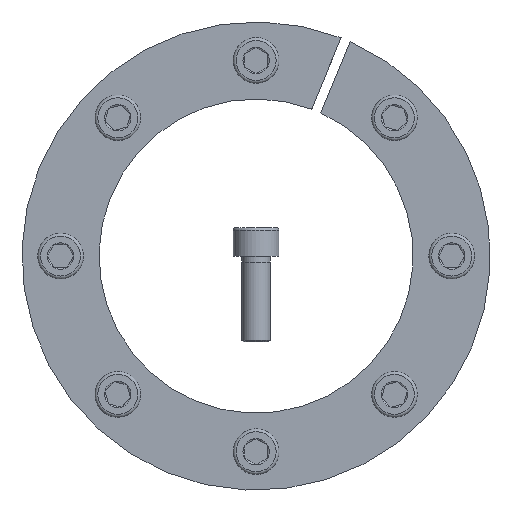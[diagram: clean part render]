
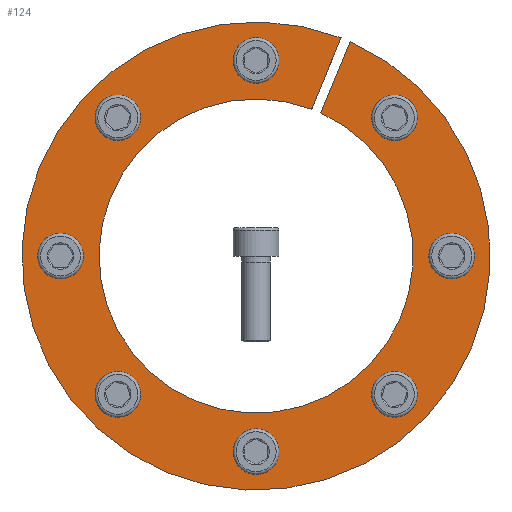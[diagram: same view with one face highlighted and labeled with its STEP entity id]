
A CAD part, front view. The second image highlights one B-rep face of the part: STEP entity #124.
In plain terms, the highlighted planar face has unit normal (0, -1, 0).
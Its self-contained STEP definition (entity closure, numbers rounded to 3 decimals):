
#124 = ADVANCED_FACE( '', ( #278, #279, #280, #281, #282, #283, #284, #285, #286 ), #287, .F. );
#278 = FACE_BOUND( '', #440, .T. );
#279 = FACE_BOUND( '', #441, .T. );
#280 = FACE_BOUND( '', #442, .T. );
#281 = FACE_BOUND( '', #443, .T. );
#282 = FACE_BOUND( '', #444, .T. );
#283 = FACE_BOUND( '', #445, .T. );
#284 = FACE_BOUND( '', #446, .T. );
#285 = FACE_BOUND( '', #447, .T. );
#286 = FACE_OUTER_BOUND( '', #448, .T. );
#287 = PLANE( '', #449 );
#440 = EDGE_LOOP( '', ( #724 ) );
#441 = EDGE_LOOP( '', ( #725 ) );
#442 = EDGE_LOOP( '', ( #726 ) );
#443 = EDGE_LOOP( '', ( #727 ) );
#444 = EDGE_LOOP( '', ( #728 ) );
#445 = EDGE_LOOP( '', ( #729 ) );
#446 = EDGE_LOOP( '', ( #730 ) );
#447 = EDGE_LOOP( '', ( #731 ) );
#448 = EDGE_LOOP( '', ( #732, #733, #734, #735 ) );
#449 = AXIS2_PLACEMENT_3D( '', #736, #737, #738 );
#724 = ORIENTED_EDGE( '', *, *, #817, .T. );
#725 = ORIENTED_EDGE( '', *, *, #858, .T. );
#726 = ORIENTED_EDGE( '', *, *, #802, .T. );
#727 = ORIENTED_EDGE( '', *, *, #887, .T. );
#728 = ORIENTED_EDGE( '', *, *, #877, .T. );
#729 = ORIENTED_EDGE( '', *, *, #855, .T. );
#730 = ORIENTED_EDGE( '', *, *, #805, .T. );
#731 = ORIENTED_EDGE( '', *, *, #811, .T. );
#732 = ORIENTED_EDGE( '', *, *, #884, .T. );
#733 = ORIENTED_EDGE( '', *, *, #822, .T. );
#734 = ORIENTED_EDGE( '', *, *, #825, .T. );
#735 = ORIENTED_EDGE( '', *, *, #835, .F. );
#736 = CARTESIAN_POINT( '', ( 0., 0., 82. ) );
#737 = DIRECTION( '', ( 0., 1., 0. ) );
#738 = DIRECTION( '', ( 0., 0., 1. ) );
#802 = EDGE_CURVE( '', #954, #954, #955, .T. );
#805 = EDGE_CURVE( '', #959, #959, #960, .T. );
#811 = EDGE_CURVE( '', #969, #969, #970, .T. );
#817 = EDGE_CURVE( '', #979, #979, #980, .T. );
#822 = EDGE_CURVE( '', #983, #987, #989, .T. );
#825 = EDGE_CURVE( '', #987, #992, #994, .T. );
#835 = EDGE_CURVE( '', #1010, #992, #1012, .T. );
#855 = EDGE_CURVE( '', #1044, #1044, #1045, .T. );
#858 = EDGE_CURVE( '', #1049, #1049, #1050, .T. );
#877 = EDGE_CURVE( '', #1078, #1078, #1079, .T. );
#884 = EDGE_CURVE( '', #1010, #983, #1086, .T. );
#887 = EDGE_CURVE( '', #1089, #1089, #1090, .T. );
#954 = VERTEX_POINT( '', #1241 );
#955 = CIRCLE( '', #1242, 5. );
#959 = VERTEX_POINT( '', #1246 );
#960 = CIRCLE( '', #1247, 5. );
#969 = VERTEX_POINT( '', #1256 );
#970 = CIRCLE( '', #1257, 5. );
#979 = VERTEX_POINT( '', #1266 );
#980 = CIRCLE( '', #1267, 5. );
#983 = VERTEX_POINT( '', #1270 );
#987 = VERTEX_POINT( '', #1275 );
#989 = CIRCLE( '', #1278, 82. );
#992 = VERTEX_POINT( '', #1281 );
#994 = LINE( '', #1284, #1285 );
#1010 = VERTEX_POINT( '', #1312 );
#1012 = CIRCLE( '', #1315, 55. );
#1044 = VERTEX_POINT( '', #1348 );
#1045 = CIRCLE( '', #1349, 5. );
#1049 = VERTEX_POINT( '', #1353 );
#1050 = CIRCLE( '', #1354, 5. );
#1078 = VERTEX_POINT( '', #1387 );
#1079 = CIRCLE( '', #1388, 5. );
#1086 = LINE( '', #1400, #1401 );
#1089 = VERTEX_POINT( '', #1404 );
#1090 = CIRCLE( '', #1405, 5. );
#1241 = CARTESIAN_POINT( '', ( 44.901, 0., -51.972 ) );
#1242 = AXIS2_PLACEMENT_3D( '', #1446, #1447, #1448 );
#1246 = CARTESIAN_POINT( '', ( -5., 0., -68.5 ) );
#1247 = AXIS2_PLACEMENT_3D( '', #1452, #1453, #1454 );
#1256 = CARTESIAN_POINT( '', ( -68.5, 0., 5. ) );
#1257 = AXIS2_PLACEMENT_3D( '', #1464, #1465, #1466 );
#1266 = CARTESIAN_POINT( '', ( -44.901, 0., 51.972 ) );
#1267 = AXIS2_PLACEMENT_3D( '', #1476, #1477, #1478 );
#1270 = CARTESIAN_POINT( '', ( 29.756, 0., 76.411 ) );
#1275 = CARTESIAN_POINT( '', ( 32.99, 0., 75.071 ) );
#1278 = AXIS2_PLACEMENT_3D( '', #1484, #1485, #1486 );
#1281 = CARTESIAN_POINT( '', ( 22.654, 0., 50.118 ) );
#1284 = CARTESIAN_POINT( '', ( 32.997, 0., 75.088 ) );
#1285 = VECTOR( '', #1488, 1000. );
#1312 = CARTESIAN_POINT( '', ( 19.42, 0., 51.457 ) );
#1315 = AXIS2_PLACEMENT_3D( '', #1495, #1496, #1497 );
#1348 = CARTESIAN_POINT( '', ( 68.5, 0., -5. ) );
#1349 = AXIS2_PLACEMENT_3D( '', #1538, #1539, #1540 );
#1353 = CARTESIAN_POINT( '', ( -51.972, 0., -44.901 ) );
#1354 = AXIS2_PLACEMENT_3D( '', #1544, #1545, #1546 );
#1387 = CARTESIAN_POINT( '', ( 5., 0., 68.5 ) );
#1388 = AXIS2_PLACEMENT_3D( '', #1576, #1577, #1578 );
#1400 = CARTESIAN_POINT( '', ( 19.42, 0., 51.457 ) );
#1401 = VECTOR( '', #1581, 1000. );
#1404 = CARTESIAN_POINT( '', ( 51.972, 0., 44.901 ) );
#1405 = AXIS2_PLACEMENT_3D( '', #1582, #1583, #1584 );
#1446 = CARTESIAN_POINT( '', ( 48.437, 0., -48.437 ) );
#1447 = DIRECTION( '', ( 0., 1., 0. ) );
#1448 = DIRECTION( '', ( -0.707, 0., -0.707 ) );
#1452 = CARTESIAN_POINT( '', ( 0., 0., -68.5 ) );
#1453 = DIRECTION( '', ( 0., 1., 0. ) );
#1454 = DIRECTION( '', ( -1., 0., 0. ) );
#1464 = CARTESIAN_POINT( '', ( -68.5, 0., 0. ) );
#1465 = DIRECTION( '', ( 0., 1., 0. ) );
#1466 = DIRECTION( '', ( 0., 0., 1. ) );
#1476 = CARTESIAN_POINT( '', ( -48.437, 0., 48.437 ) );
#1477 = DIRECTION( '', ( 0., 1., 0. ) );
#1478 = DIRECTION( '', ( 0.707, 0., 0.707 ) );
#1484 = CARTESIAN_POINT( '', ( 0., 0., 0. ) );
#1485 = DIRECTION( '', ( 0., -1., 0. ) );
#1486 = DIRECTION( '', ( 0., 0., -1. ) );
#1488 = DIRECTION( '', ( -0.383, 0., -0.924 ) );
#1495 = CARTESIAN_POINT( '', ( 0., 0., 0. ) );
#1496 = DIRECTION( '', ( 0., -1., 0. ) );
#1497 = DIRECTION( '', ( 0., 0., -1. ) );
#1538 = CARTESIAN_POINT( '', ( 68.5, 0., 0. ) );
#1539 = DIRECTION( '', ( 0., 1., 0. ) );
#1540 = DIRECTION( '', ( 0., 0., -1. ) );
#1544 = CARTESIAN_POINT( '', ( -48.437, 0., -48.437 ) );
#1545 = DIRECTION( '', ( 0., 1., 0. ) );
#1546 = DIRECTION( '', ( -0.707, 0., 0.707 ) );
#1576 = CARTESIAN_POINT( '', ( 0., 0., 68.5 ) );
#1577 = DIRECTION( '', ( 0., 1., 0. ) );
#1578 = DIRECTION( '', ( 1., 0., 0. ) );
#1581 = DIRECTION( '', ( 0.383, 0., 0.924 ) );
#1582 = CARTESIAN_POINT( '', ( 48.437, 0., 48.437 ) );
#1583 = DIRECTION( '', ( 0., 1., 0. ) );
#1584 = DIRECTION( '', ( 0.707, 0., -0.707 ) );
